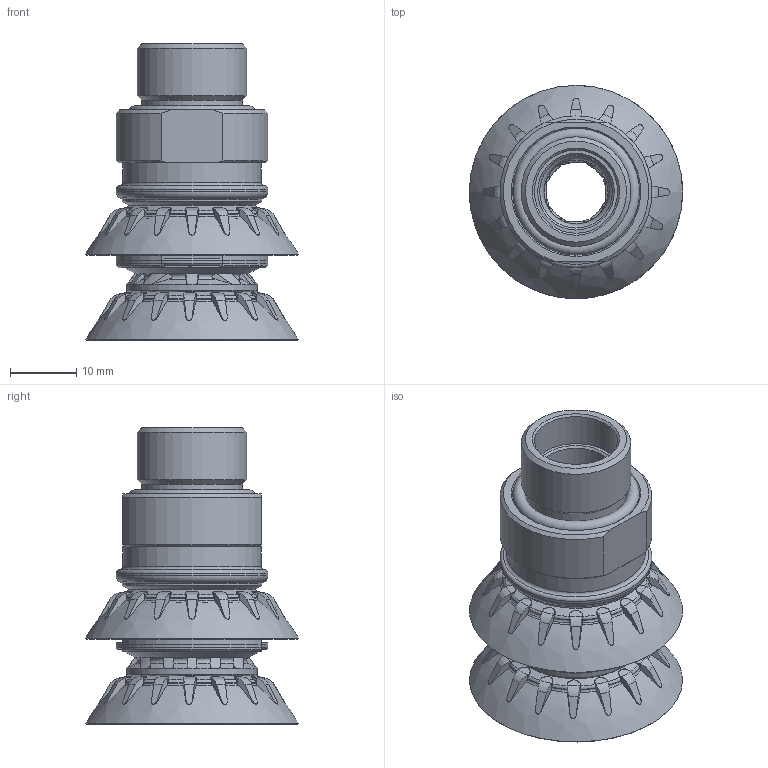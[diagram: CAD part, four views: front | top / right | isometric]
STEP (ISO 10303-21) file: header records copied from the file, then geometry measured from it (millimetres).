
FILE_DESCRIPTION( ( 'Unknown' ), '1' );
FILE_NAME( 'C:/Documents and Settings/owner/官帕 拳搁/叼膏怜/3D/2013.12.19 概流 Cup/荤夯 - B1.5/B2.5-20-X30-S-A-38M.stp', 'Unknown', ( 'Unknown' ), ( 'Unknown' ), 'XStep 1.0', 'Unknown', ' ' );
FILE_SCHEMA( ( 'automotive_design' ) );
Length unit declared in the file: millimetre
Products named in the file (6): Assem1; B2.5-20; 38M-Oring; B2.5-20-X30; B1.5-20-38M; B2.5-20-stopperA_20131004
Bounding box: 32.28 x 32.28 x 44.85 mm (x, y, z)
Volume: 14115.5 mm3; surface area: 21139.5 mm2
Topology: 10 solids, 10 shells, 1372 faces, 3498 edges, 2164 vertices
Faces by surface type: cylinder 354, torus 352, plane 348, cone 188, bspline 130
Full cylindrical faces by diameter (mm): 9.8 x2, 11 x2, 11.9 x4, 12.6 x2, 13 x4, 13.4 x2, 14.475 x2, 15 x4, 15.3 x2, 15.673 x2, 16 x2, 16.6 x2, 17.5 x2, 19 x2, 19.2 x2, 19.8 x2, 21 x2, 21.18 x2, 23 x6
Entity records: 28200 total; most frequent: CARTESIAN_POINT 12437, ORIENTED_EDGE 3276, DIRECTION 2565, EDGE_CURVE 1638, AXIS2_PLACEMENT_3D 1149, VERTEX_POINT 1076, B_SPLINE_CURVE_WITH_KNOTS 849, EDGE_LOOP 808
